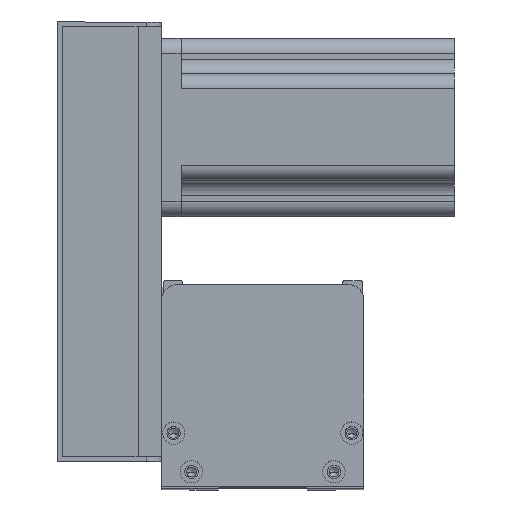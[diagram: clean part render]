
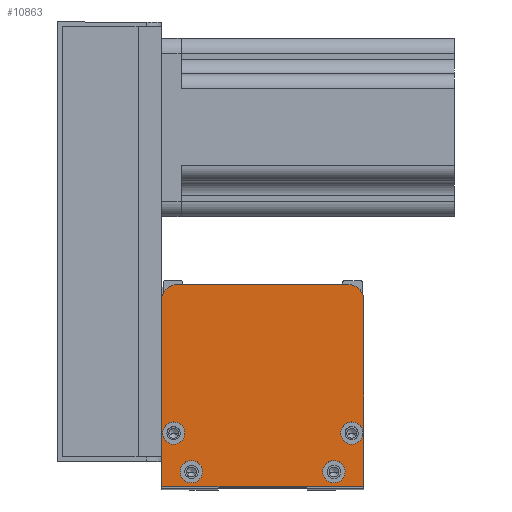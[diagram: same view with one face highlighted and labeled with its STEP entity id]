
A CAD part, top view. The second image highlights one B-rep face of the part: STEP entity #10863.
In plain terms, the highlighted planar face has unit normal (0, 0, 1) as drawn and (0, 0, -1) by its records, which use the part's own axes.
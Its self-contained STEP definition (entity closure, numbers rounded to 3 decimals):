
#64 = AXIS2_PLACEMENT_3D ( 'NONE', #13057, #22886, #17074 ) ;
#102 = EDGE_CURVE ( 'NONE', #23563, #11957, #24007, .T. ) ;
#244 = ORIENTED_EDGE ( 'NONE', *, *, #21123, .F. ) ;
#1302 = CARTESIAN_POINT ( 'NONE',  ( 4., 18., 0. ) ) ;
#1486 = AXIS2_PLACEMENT_3D ( 'NONE', #5078, #12989, #14745 ) ;
#1550 = CARTESIAN_POINT ( 'NONE',  ( 10., 5., 0. ) ) ;
#1662 = VERTEX_POINT ( 'NONE', #16825 ) ;
#1731 = CARTESIAN_POINT ( 'NONE',  ( 64., 18., 0. ) ) ;
#1826 = LINE ( 'NONE', #24864, #2765 ) ;
#1954 = AXIS2_PLACEMENT_3D ( 'NONE', #3712, #13320, #11908 ) ;
#2428 = ORIENTED_EDGE ( 'NONE', *, *, #15389, .T. ) ;
#2590 = EDGE_CURVE ( 'NONE', #2829, #11591, #19824, .T. ) ;
#2765 = VECTOR ( 'NONE', #3170, 1000. ) ;
#2768 = CARTESIAN_POINT ( 'NONE',  ( 0., 0., 0. ) ) ;
#2829 = VERTEX_POINT ( 'NONE', #20543 ) ;
#2946 = CIRCLE ( 'NONE', #11978, 3.75 ) ;
#3059 = DIRECTION ( 'NONE',  ( -1., 0., 0. ) ) ;
#3170 = DIRECTION ( 'NONE',  ( 0., -1., 0. ) ) ;
#3205 = CARTESIAN_POINT ( 'NONE',  ( 6.25, 5., 0. ) ) ;
#3434 = DIRECTION ( 'NONE',  ( -1., 0., 0. ) ) ;
#3712 = CARTESIAN_POINT ( 'NONE',  ( 58., 5., 0. ) ) ;
#3805 = FACE_BOUND ( 'NONE', #15152, .T. ) ;
#3867 = EDGE_CURVE ( 'NONE', #17058, #11265, #24171, .T. ) ;
#4181 = CARTESIAN_POINT ( 'NONE',  ( 13.75, 5., 0. ) ) ;
#4283 = CARTESIAN_POINT ( 'NONE',  ( 58., 5., 0. ) ) ;
#4487 = AXIS2_PLACEMENT_3D ( 'NONE', #23481, #5302, #21079 ) ;
#4941 = VERTEX_POINT ( 'NONE', #24712 ) ;
#5078 = CARTESIAN_POINT ( 'NONE',  ( 0., 0., 0. ) ) ;
#5302 = DIRECTION ( 'NONE',  ( 0., 0., -1. ) ) ;
#5546 = CIRCLE ( 'NONE', #11555, 3.75 ) ;
#5580 = ORIENTED_EDGE ( 'NONE', *, *, #2590, .F. ) ;
#5727 = ORIENTED_EDGE ( 'NONE', *, *, #5862, .F. ) ;
#5862 = EDGE_CURVE ( 'NONE', #11591, #2829, #9315, .T. ) ;
#6311 = DIRECTION ( 'NONE',  ( 0., 0., -1. ) ) ;
#6344 = FACE_BOUND ( 'NONE', #21557, .T. ) ;
#7433 = EDGE_CURVE ( 'NONE', #9931, #1662, #11777, .T. ) ;
#7471 = EDGE_CURVE ( 'NONE', #12495, #17185, #2946, .T. ) ;
#8156 = EDGE_LOOP ( 'NONE', ( #5580, #5727 ) ) ;
#8556 = ORIENTED_EDGE ( 'NONE', *, *, #12239, .F. ) ;
#8562 = DIRECTION ( 'NONE',  ( 0., 0., -1. ) ) ;
#8777 = VERTEX_POINT ( 'NONE', #22751 ) ;
#9315 = CIRCLE ( 'NONE', #16791, 3.75 ) ;
#9559 = DIRECTION ( 'NONE',  ( 0., 0., -1. ) ) ;
#9643 = ORIENTED_EDGE ( 'NONE', *, *, #7433, .F. ) ;
#9931 = VERTEX_POINT ( 'NONE', #2768 ) ;
#10102 = FACE_OUTER_BOUND ( 'NONE', #13043, .T. ) ;
#10374 = LINE ( 'NONE', #19316, #24197 ) ;
#10434 = FACE_BOUND ( 'NONE', #8156, .T. ) ;
#10436 = EDGE_CURVE ( 'NONE', #17185, #12495, #20785, .T. ) ;
#10649 = CARTESIAN_POINT ( 'NONE',  ( 63., 68., 0. ) ) ;
#10863 = ADVANCED_FACE ( 'NONE', ( #10434, #6344, #12320, #3805, #10102 ), #12640, .F. ) ;
#11265 = VERTEX_POINT ( 'NONE', #4181 ) ;
#11555 = AXIS2_PLACEMENT_3D ( 'NONE', #1550, #9559, #13256 ) ;
#11591 = VERTEX_POINT ( 'NONE', #21092 ) ;
#11777 = LINE ( 'NONE', #15462, #22131 ) ;
#11908 = DIRECTION ( 'NONE',  ( -1., 0., 0. ) ) ;
#11957 = VERTEX_POINT ( 'NONE', #22145 ) ;
#11978 = AXIS2_PLACEMENT_3D ( 'NONE', #1302, #25352, #15727 ) ;
#12194 = DIRECTION ( 'NONE',  ( 1., 0., 0. ) ) ;
#12239 = EDGE_CURVE ( 'NONE', #24127, #4941, #21377, .T. ) ;
#12320 = FACE_BOUND ( 'NONE', #16621, .T. ) ;
#12495 = VERTEX_POINT ( 'NONE', #14383 ) ;
#12640 = PLANE ( 'NONE',  #1486 ) ;
#12682 = DIRECTION ( 'NONE',  ( -1., 0., 0. ) ) ;
#12915 = CARTESIAN_POINT ( 'NONE',  ( 61.75, 5., 0. ) ) ;
#12989 = DIRECTION ( 'NONE',  ( 0., 0., 1. ) ) ;
#13013 = CARTESIAN_POINT ( 'NONE',  ( 68., 68., 0. ) ) ;
#13043 = EDGE_LOOP ( 'NONE', ( #20827, #2428, #8556, #22677, #13274, #9643 ) ) ;
#13057 = CARTESIAN_POINT ( 'NONE',  ( 5., 63., 0. ) ) ;
#13256 = DIRECTION ( 'NONE',  ( -1., 0., 0. ) ) ;
#13257 = CIRCLE ( 'NONE', #25907, 5. ) ;
#13274 = ORIENTED_EDGE ( 'NONE', *, *, #24235, .F. ) ;
#13320 = DIRECTION ( 'NONE',  ( 0., 0., -1. ) ) ;
#13488 = DIRECTION ( 'NONE',  ( 0., 0., -1. ) ) ;
#13830 = CARTESIAN_POINT ( 'NONE',  ( 68., 63., 0. ) ) ;
#14091 = ORIENTED_EDGE ( 'NONE', *, *, #7471, .F. ) ;
#14383 = CARTESIAN_POINT ( 'NONE',  ( 7.75, 18., 0. ) ) ;
#14745 = DIRECTION ( 'NONE',  ( 1., 0., 0. ) ) ;
#15152 = EDGE_LOOP ( 'NONE', ( #19704, #20873 ) ) ;
#15370 = DIRECTION ( 'NONE',  ( 1., 0., 0. ) ) ;
#15389 = EDGE_CURVE ( 'NONE', #8777, #4941, #17116, .T. ) ;
#15462 = CARTESIAN_POINT ( 'NONE',  ( 68., 0., 0. ) ) ;
#15727 = DIRECTION ( 'NONE',  ( -1., 0., 0. ) ) ;
#15936 = AXIS2_PLACEMENT_3D ( 'NONE', #17404, #13488, #3434 ) ;
#16078 = VERTEX_POINT ( 'NONE', #13830 ) ;
#16621 = EDGE_LOOP ( 'NONE', ( #21278, #244 ) ) ;
#16791 = AXIS2_PLACEMENT_3D ( 'NONE', #1731, #19816, #21746 ) ;
#16825 = CARTESIAN_POINT ( 'NONE',  ( 68., 0., 0. ) ) ;
#17058 = VERTEX_POINT ( 'NONE', #3205 ) ;
#17074 = DIRECTION ( 'NONE',  ( 1., 0., 0. ) ) ;
#17116 = CIRCLE ( 'NONE', #64, 5. ) ;
#17185 = VERTEX_POINT ( 'NONE', #23928 ) ;
#17404 = CARTESIAN_POINT ( 'NONE',  ( 64., 18., 0. ) ) ;
#17827 = EDGE_CURVE ( 'NONE', #24127, #16078, #13257, .T. ) ;
#19316 = CARTESIAN_POINT ( 'NONE',  ( 68., 0., 0. ) ) ;
#19704 = ORIENTED_EDGE ( 'NONE', *, *, #25222, .F. ) ;
#19708 = EDGE_CURVE ( 'NONE', #8777, #9931, #1826, .T. ) ;
#19816 = DIRECTION ( 'NONE',  ( 0., 0., -1. ) ) ;
#19824 = CIRCLE ( 'NONE', #15936, 3.75 ) ;
#20082 = DIRECTION ( 'NONE',  ( 0., 0., -1. ) ) ;
#20505 = AXIS2_PLACEMENT_3D ( 'NONE', #4283, #20082, #24135 ) ;
#20543 = CARTESIAN_POINT ( 'NONE',  ( 60.25, 18., 0. ) ) ;
#20659 = CARTESIAN_POINT ( 'NONE',  ( 4., 18., 0. ) ) ;
#20785 = CIRCLE ( 'NONE', #21827, 3.75 ) ;
#20827 = ORIENTED_EDGE ( 'NONE', *, *, #19708, .F. ) ;
#20873 = ORIENTED_EDGE ( 'NONE', *, *, #102, .F. ) ;
#20921 = ORIENTED_EDGE ( 'NONE', *, *, #10436, .F. ) ;
#21079 = DIRECTION ( 'NONE',  ( -1., 0., 0. ) ) ;
#21092 = CARTESIAN_POINT ( 'NONE',  ( 67.75, 18., 0. ) ) ;
#21123 = EDGE_CURVE ( 'NONE', #11265, #17058, #5546, .T. ) ;
#21278 = ORIENTED_EDGE ( 'NONE', *, *, #3867, .F. ) ;
#21377 = LINE ( 'NONE', #13013, #22324 ) ;
#21407 = DIRECTION ( 'NONE',  ( 0., 1., 0. ) ) ;
#21557 = EDGE_LOOP ( 'NONE', ( #20921, #14091 ) ) ;
#21746 = DIRECTION ( 'NONE',  ( -1., 0., 0. ) ) ;
#21827 = AXIS2_PLACEMENT_3D ( 'NONE', #20659, #8562, #12682 ) ;
#22131 = VECTOR ( 'NONE', #15370, 1000. ) ;
#22145 = CARTESIAN_POINT ( 'NONE',  ( 54.25, 5., 0. ) ) ;
#22324 = VECTOR ( 'NONE', #3059, 1000. ) ;
#22677 = ORIENTED_EDGE ( 'NONE', *, *, #17827, .T. ) ;
#22751 = CARTESIAN_POINT ( 'NONE',  ( 0., 63., 0. ) ) ;
#22886 = DIRECTION ( 'NONE',  ( 0., 0., -1. ) ) ;
#23481 = CARTESIAN_POINT ( 'NONE',  ( 10., 5., 0. ) ) ;
#23563 = VERTEX_POINT ( 'NONE', #12915 ) ;
#23928 = CARTESIAN_POINT ( 'NONE',  ( 0.25, 18., 0. ) ) ;
#24007 = CIRCLE ( 'NONE', #1954, 3.75 ) ;
#24127 = VERTEX_POINT ( 'NONE', #10649 ) ;
#24135 = DIRECTION ( 'NONE',  ( -1., 0., 0. ) ) ;
#24171 = CIRCLE ( 'NONE', #4487, 3.75 ) ;
#24197 = VECTOR ( 'NONE', #21407, 1000. ) ;
#24220 = CARTESIAN_POINT ( 'NONE',  ( 63., 63., 0. ) ) ;
#24235 = EDGE_CURVE ( 'NONE', #1662, #16078, #10374, .T. ) ;
#24712 = CARTESIAN_POINT ( 'NONE',  ( 5., 68., 0. ) ) ;
#24864 = CARTESIAN_POINT ( 'NONE',  ( 0., 0., 0. ) ) ;
#25222 = EDGE_CURVE ( 'NONE', #11957, #23563, #25682, .T. ) ;
#25352 = DIRECTION ( 'NONE',  ( 0., 0., -1. ) ) ;
#25682 = CIRCLE ( 'NONE', #20505, 3.75 ) ;
#25907 = AXIS2_PLACEMENT_3D ( 'NONE', #24220, #6311, #12194 ) ;
